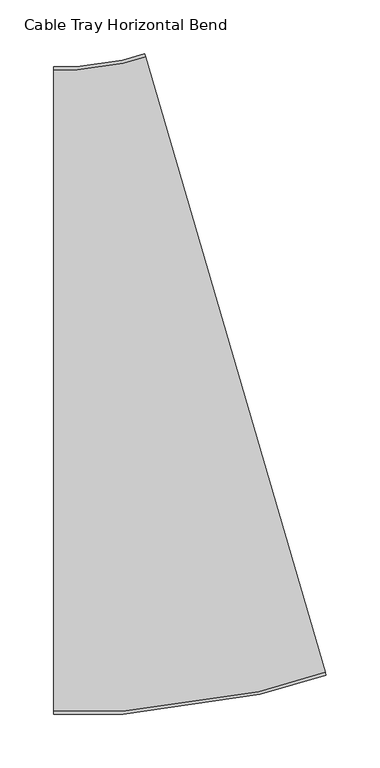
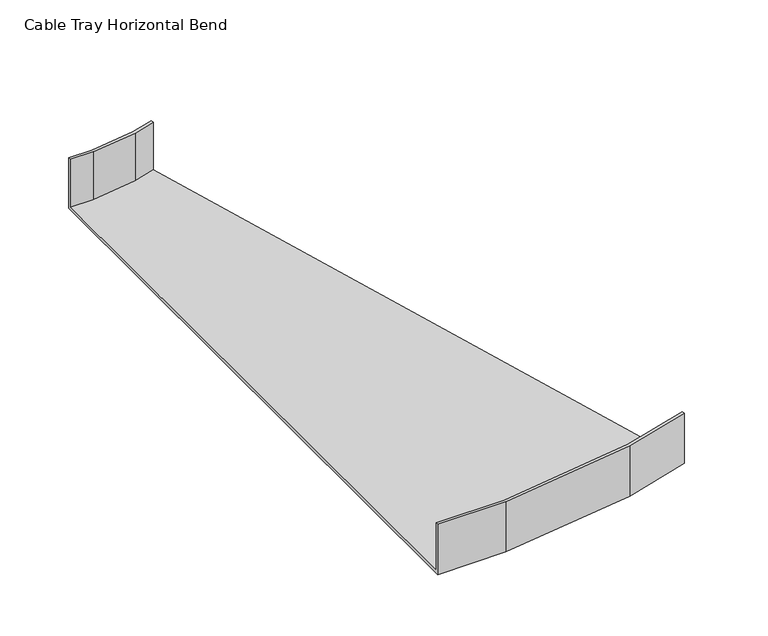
"""IFC4 building model written with IfcOpenShell, lengths in millimetres: cable carrier fitting geometry, Cable Tray Horizontal Bend : ELEC_SUB_CT_N2402."""

from ifc_helpers import new_model, si_unit, origin, place, context, project, spatial, faceted_brep, source, transform, mapped, element, save


def cable_tray_horizontal_bend_cd0ecd2f(model_context):
    return source(origin(), model_context, "Body", "Brep", [
        faceted_brep([(-85.9509162, -300.0, -25.0), (-85.9509162, -300.0, 25.0), (-85.9509162, -297.46, 25.0), (-85.9509162, -297.46, -22.46), (-85.9509162, 297.46, -22.46), (-85.9509162, 297.46, 25.0), (-85.9509162, 300.0, 25.0), (-85.9509162, 300.0, -25.0), (166.7168375, -263.8049584, -25.0), (-1.7283317, 312.0650139, -25.0), (-1.7283317, 312.0650139, 25.0), (-1.0152471, 309.6271643, 25.0), (-1.0152471, 309.6271643, -22.46), (166.0037529, -261.3671089, -22.46), (166.0037529, -261.3671089, 25.0), (166.7168375, -263.8049584, 25.0), (-21.815091, -300.0, -25.0), (-21.815091, -300.0, 25.0), (105.1603443, -281.810575, 25.0), (104.6209858, -279.3219096, 25.0), (-21.9960965, -297.46, 25.0), (-21.9960965, -297.46, -22.46), (104.6209858, -279.3219096, -22.46), (-21.7078043, 303.5744763, -22.46), (-64.3913023, 297.46, -22.46), (-64.3913023, 297.46, 25.0), (-21.7078043, 303.5744763, 25.0), (-22.2471627, 306.0631417, 25.0), (-64.5723078, 300.0, 25.0), (-64.5723078, 300.0, -25.0), (-22.2471627, 306.0631417, -25.0), (105.1603443, -281.810575, -25.0)], [[[0, 1, 2, 3, 4, 5, 6, 7]], [[8, 9, 10, 11, 12, 13, 14, 15]], [[1, 0, 16, 17]], [[2, 1, 17, 18, 15, 14, 19, 20]], [[3, 2, 20, 21]], [[4, 3, 21, 22, 13, 12, 23, 24]], [[5, 4, 24, 25]], [[6, 5, 25, 26, 11, 10, 27, 28]], [[7, 6, 28, 29]], [[0, 7, 29, 30, 9, 8, 31, 16]], [[17, 16, 31, 18]], [[21, 20, 19, 22]], [[25, 24, 23, 26]], [[29, 28, 27, 30]], [[18, 31, 8, 15]], [[22, 19, 14, 13]], [[26, 23, 12, 11]], [[30, 27, 10, 9]]]),
    ])


if __name__ == "__main__":
    model = new_model("IFC4")
    model_context = context("Model", 3, world=origin())
    ifc_project = project(units=[si_unit("LENGTHUNIT", "METRE", prefix="MILLI")], contexts=[model_context])
    site = spatial("IfcSite", under=ifc_project)
    building = spatial("IfcBuilding", under=site)
    placement = place(None, origin())
    cable_tray_horizontal_bend_shape = cable_tray_horizontal_bend_cd0ecd2f(model_context)
    element("IfcCableCarrierFitting", 1, ObjectType="Cable Tray Horizontal Bend : ELEC_SUB_CT_N2402", at=placement, inside=building, context=model_context, shape_type="MappedRepresentation", body=[
        mapped(cable_tray_horizontal_bend_shape, transform((0.0, 0.0, 0.0), x_axis=(1.0, 0.0, 0.0), y_axis=(0.0, 1.0, 0.0), z_axis=(0.0, 0.0, 1.0))),
    ])
    save(model, "model.ifc")
